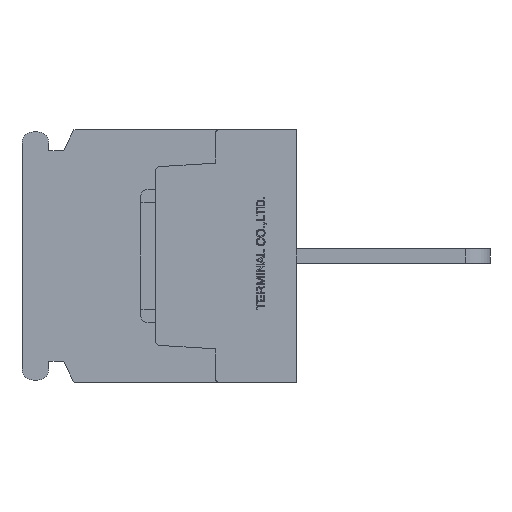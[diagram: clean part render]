
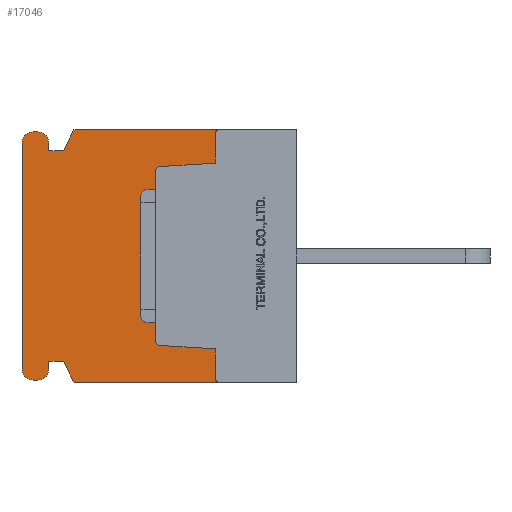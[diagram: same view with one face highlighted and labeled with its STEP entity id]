
A CAD part, left-side view. The second image highlights one B-rep face of the part: STEP entity #17046.
In plain terms, the highlighted planar face has unit normal (-1, 0, 0).
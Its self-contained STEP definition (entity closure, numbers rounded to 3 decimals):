
#995=CIRCLE('',#18122,0.3);
#997=CIRCLE('',#18126,0.3);
#999=CIRCLE('',#18131,0.3);
#1001=CIRCLE('',#18134,0.3);
#1010=CIRCLE('',#18291,0.75);
#1011=CIRCLE('',#18292,0.75);
#1012=CIRCLE('',#18293,0.75);
#1013=CIRCLE('',#18294,0.75);
#1960=VERTEX_POINT('',#25389);
#1961=VERTEX_POINT('',#25391);
#1985=VERTEX_POINT('',#25445);
#1986=VERTEX_POINT('',#25447);
#2227=VERTEX_POINT('',#26287);
#2228=VERTEX_POINT('',#26288);
#2231=VERTEX_POINT('',#26296);
#2245=VERTEX_POINT('',#26326);
#2247=VERTEX_POINT('',#26332);
#2249=VERTEX_POINT('',#26338);
#2251=VERTEX_POINT('',#26344);
#2253=VERTEX_POINT('',#26353);
#2600=VERTEX_POINT('',#27895);
#2601=VERTEX_POINT('',#27897);
#2602=VERTEX_POINT('',#27899);
#2603=VERTEX_POINT('',#27901);
#2604=VERTEX_POINT('',#27903);
#2605=VERTEX_POINT('',#27905);
#2606=VERTEX_POINT('',#27907);
#2607=VERTEX_POINT('',#27909);
#2608=VERTEX_POINT('',#27911);
#2609=VERTEX_POINT('',#27913);
#2610=VERTEX_POINT('',#27915);
#2611=VERTEX_POINT('',#27917);
#3702=VECTOR('',#20383,1.);
#3730=VECTOR('',#20415,1.);
#3972=VECTOR('',#21100,1.);
#3989=VECTOR('',#21124,1.);
#3993=VECTOR('',#21135,1.);
#3996=VECTOR('',#21139,1.);
#4000=VECTOR('',#21156,1.);
#4413=VECTOR('',#21734,1.);
#4414=VECTOR('',#21735,1.);
#4415=VECTOR('',#21736,1.);
#4416=VECTOR('',#21739,1.);
#4417=VECTOR('',#21742,1.);
#4418=VECTOR('',#21745,1.);
#4419=VECTOR('',#21748,1.);
#4420=VECTOR('',#21749,1.);
#4421=VECTOR('',#21750,1.);
#5508=LINE('',#25390,#3702);
#5536=LINE('',#25446,#3730);
#5778=LINE('',#26286,#3972);
#5795=LINE('',#26325,#3989);
#5799=LINE('',#26337,#3993);
#5802=LINE('',#26343,#3996);
#5806=LINE('',#26358,#4000);
#6219=LINE('',#27894,#4413);
#6220=LINE('',#27896,#4414);
#6221=LINE('',#27898,#4415);
#6222=LINE('',#27902,#4416);
#6223=LINE('',#27906,#4417);
#6224=LINE('',#27910,#4418);
#6225=LINE('',#27914,#4419);
#6226=LINE('',#27916,#4420);
#6227=LINE('',#27918,#4421);
#7703=EDGE_CURVE('',#1960,#1961,#5508,.T.);
#7732=EDGE_CURVE('',#1985,#1986,#5536,.T.);
#8109=EDGE_CURVE('',#2227,#2228,#5778,.T.);
#8113=EDGE_CURVE('',#2231,#2227,#995,.T.);
#8128=EDGE_CURVE('',#2245,#2231,#5795,.T.);
#8131=EDGE_CURVE('',#2247,#2245,#997,.T.);
#8134=EDGE_CURVE('',#2249,#2247,#5799,.T.);
#8137=EDGE_CURVE('',#2251,#2249,#5802,.T.);
#8140=EDGE_CURVE('',#1986,#2251,#999,.T.);
#8142=EDGE_CURVE('',#2253,#1960,#1001,.T.);
#8145=EDGE_CURVE('',#2228,#2253,#5806,.T.);
#8669=EDGE_CURVE('',#2600,#1985,#6219,.T.);
#8670=EDGE_CURVE('',#2601,#2600,#6220,.T.);
#8671=EDGE_CURVE('',#2602,#2601,#6221,.T.);
#8672=EDGE_CURVE('',#2603,#2602,#1010,.T.);
#8673=EDGE_CURVE('',#2604,#2603,#6222,.T.);
#8674=EDGE_CURVE('',#2605,#2604,#1011,.T.);
#8675=EDGE_CURVE('',#2606,#2605,#6223,.T.);
#8676=EDGE_CURVE('',#2607,#2606,#1012,.T.);
#8677=EDGE_CURVE('',#2608,#2607,#6224,.T.);
#8678=EDGE_CURVE('',#2609,#2608,#1013,.T.);
#8679=EDGE_CURVE('',#2610,#2609,#6225,.T.);
#8680=EDGE_CURVE('',#2611,#2610,#6226,.T.);
#8681=EDGE_CURVE('',#1961,#2611,#6227,.T.);
#13470=ORIENTED_EDGE('',*,*,#8140,.F.);
#13471=ORIENTED_EDGE('',*,*,#7732,.F.);
#13472=ORIENTED_EDGE('',*,*,#8669,.F.);
#13473=ORIENTED_EDGE('',*,*,#8670,.F.);
#13474=ORIENTED_EDGE('',*,*,#8671,.F.);
#13475=ORIENTED_EDGE('',*,*,#8672,.F.);
#13476=ORIENTED_EDGE('',*,*,#8673,.F.);
#13477=ORIENTED_EDGE('',*,*,#8674,.F.);
#13478=ORIENTED_EDGE('',*,*,#8675,.F.);
#13479=ORIENTED_EDGE('',*,*,#8676,.F.);
#13480=ORIENTED_EDGE('',*,*,#8677,.F.);
#13481=ORIENTED_EDGE('',*,*,#8678,.F.);
#13482=ORIENTED_EDGE('',*,*,#8679,.F.);
#13483=ORIENTED_EDGE('',*,*,#8680,.F.);
#13484=ORIENTED_EDGE('',*,*,#8681,.F.);
#13485=ORIENTED_EDGE('',*,*,#7703,.F.);
#13486=ORIENTED_EDGE('',*,*,#8142,.F.);
#13487=ORIENTED_EDGE('',*,*,#8145,.F.);
#13488=ORIENTED_EDGE('',*,*,#8109,.F.);
#13489=ORIENTED_EDGE('',*,*,#8113,.F.);
#13490=ORIENTED_EDGE('',*,*,#8128,.F.);
#13491=ORIENTED_EDGE('',*,*,#8131,.F.);
#13492=ORIENTED_EDGE('',*,*,#8134,.F.);
#13493=ORIENTED_EDGE('',*,*,#8137,.F.);
#14961=EDGE_LOOP('',(#13470,#13471,#13472,#13473,#13474,#13475,#13476,#13477,
#13478,#13479,#13480,#13481,#13482,#13483,#13484,#13485,#13486,#13487,#13488,
#13489,#13490,#13491,#13492,#13493));
#16065=FACE_BOUND('',#14961,.T.);
#17046=ADVANCED_FACE('',(#16065),#28914,.F.);
#18122=AXIS2_PLACEMENT_3D('',#26295,#21106,#21107);
#18126=AXIS2_PLACEMENT_3D('',#26331,#21129,#21130);
#18131=AXIS2_PLACEMENT_3D('',#26349,#21144,#21145);
#18134=AXIS2_PLACEMENT_3D('',#26352,#21150,#21151);
#18290=AXIS2_PLACEMENT_3D('',#27893,#21733,$);
#18291=AXIS2_PLACEMENT_3D('',#27900,#21737,#21738);
#18292=AXIS2_PLACEMENT_3D('',#27904,#21740,#21741);
#18293=AXIS2_PLACEMENT_3D('',#27908,#21743,#21744);
#18294=AXIS2_PLACEMENT_3D('',#27912,#21746,#21747);
#20383=DIRECTION('',(0.,1.,0.));
#20415=DIRECTION('',(0.,-1.,0.));
#21100=DIRECTION('',(0.,-0.998,-0.062));
#21106=DIRECTION('',(-1.,0.,0.));
#21107=DIRECTION('',(0.,0.,-0.3));
#21124=DIRECTION('',(0.,0.,-1.));
#21129=DIRECTION('',(-1.,0.,0.));
#21130=DIRECTION('',(0.,0.,-0.3));
#21135=DIRECTION('',(0.,0.998,-0.062));
#21139=DIRECTION('',(0.,0.,-1.));
#21144=DIRECTION('',(-1.,0.,0.));
#21145=DIRECTION('',(0.,0.,-0.3));
#21150=DIRECTION('',(-1.,0.,0.));
#21151=DIRECTION('',(0.,0.,-0.3));
#21156=DIRECTION('',(0.,0.,-1.));
#21733=DIRECTION('',(1.,0.,0.));
#21734=DIRECTION('',(0.,-0.447,0.894));
#21735=DIRECTION('',(0.,-1.,0.));
#21736=DIRECTION('',(0.,0.,-1.));
#21737=DIRECTION('',(1.,0.,0.));
#21738=DIRECTION('',(0.,0.,-0.75));
#21739=DIRECTION('',(0.,-1.,0.));
#21740=DIRECTION('',(1.,0.,0.));
#21741=DIRECTION('',(0.,0.,-0.75));
#21742=DIRECTION('',(0.,0.,1.));
#21743=DIRECTION('',(1.,0.,0.));
#21744=DIRECTION('',(0.,0.,-0.75));
#21745=DIRECTION('',(0.,1.,0.));
#21746=DIRECTION('',(1.,0.,0.));
#21747=DIRECTION('',(0.,0.,-0.75));
#21748=DIRECTION('',(0.,0.,-1.));
#21749=DIRECTION('',(0.,1.,0.));
#21750=DIRECTION('',(0.,0.447,0.894));
#25389=CARTESIAN_POINT('',(0.,5.2,-8.5));
#25390=CARTESIAN_POINT('',(0.,0.,-8.5));
#25391=CARTESIAN_POINT('',(0.,15.,-8.5));
#25445=CARTESIAN_POINT('',(0.,15.,8.5));
#25446=CARTESIAN_POINT('',(0.,15.,8.5));
#25447=CARTESIAN_POINT('',(0.,5.2,8.5));
#26286=CARTESIAN_POINT('',(0.,9.219,-6.018));
#26287=CARTESIAN_POINT('',(0.,9.219,-6.018));
#26288=CARTESIAN_POINT('',(0.,5.5,-6.25));
#26295=CARTESIAN_POINT('',(0.,9.2,-5.718));
#26296=CARTESIAN_POINT('',(0.,9.5,-5.718));
#26325=CARTESIAN_POINT('',(0.,9.5,5.718));
#26326=CARTESIAN_POINT('',(0.,9.5,5.718));
#26331=CARTESIAN_POINT('',(0.,9.2,5.718));
#26332=CARTESIAN_POINT('',(0.,9.219,6.018));
#26337=CARTESIAN_POINT('',(0.,5.5,6.25));
#26338=CARTESIAN_POINT('',(0.,5.5,6.25));
#26343=CARTESIAN_POINT('',(0.,5.5,8.2));
#26344=CARTESIAN_POINT('',(0.,5.5,8.2));
#26349=CARTESIAN_POINT('',(0.,5.2,8.2));
#26352=CARTESIAN_POINT('',(0.,5.2,-8.2));
#26353=CARTESIAN_POINT('',(0.,5.5,-8.2));
#26358=CARTESIAN_POINT('',(0.,5.5,-6.25));
#27893=CARTESIAN_POINT('',(0.,9.463,0.));
#27894=CARTESIAN_POINT('',(0.,15.7,7.1));
#27895=CARTESIAN_POINT('',(0.,15.7,7.1));
#27896=CARTESIAN_POINT('',(0.,16.7,7.1));
#27897=CARTESIAN_POINT('',(0.,16.7,7.1));
#27898=CARTESIAN_POINT('',(0.,16.7,7.6));
#27899=CARTESIAN_POINT('',(0.,16.7,7.6));
#27900=CARTESIAN_POINT('',(0.,17.45,7.6));
#27901=CARTESIAN_POINT('',(0.,17.45,8.35));
#27902=CARTESIAN_POINT('',(0.,17.75,8.35));
#27903=CARTESIAN_POINT('',(0.,17.75,8.35));
#27904=CARTESIAN_POINT('',(0.,17.75,7.6));
#27905=CARTESIAN_POINT('',(0.,18.5,7.6));
#27906=CARTESIAN_POINT('',(0.,18.5,-7.6));
#27907=CARTESIAN_POINT('',(0.,18.5,-7.6));
#27908=CARTESIAN_POINT('',(0.,17.75,-7.6));
#27909=CARTESIAN_POINT('',(0.,17.75,-8.35));
#27910=CARTESIAN_POINT('',(0.,17.45,-8.35));
#27911=CARTESIAN_POINT('',(0.,17.45,-8.35));
#27912=CARTESIAN_POINT('',(0.,17.45,-7.6));
#27913=CARTESIAN_POINT('',(0.,16.7,-7.6));
#27914=CARTESIAN_POINT('',(0.,16.7,-7.1));
#27915=CARTESIAN_POINT('',(0.,16.7,-7.1));
#27916=CARTESIAN_POINT('',(0.,15.7,-7.1));
#27917=CARTESIAN_POINT('',(0.,15.7,-7.1));
#27918=CARTESIAN_POINT('',(0.,15.,-8.5));
#28914=PLANE('',#18290);
